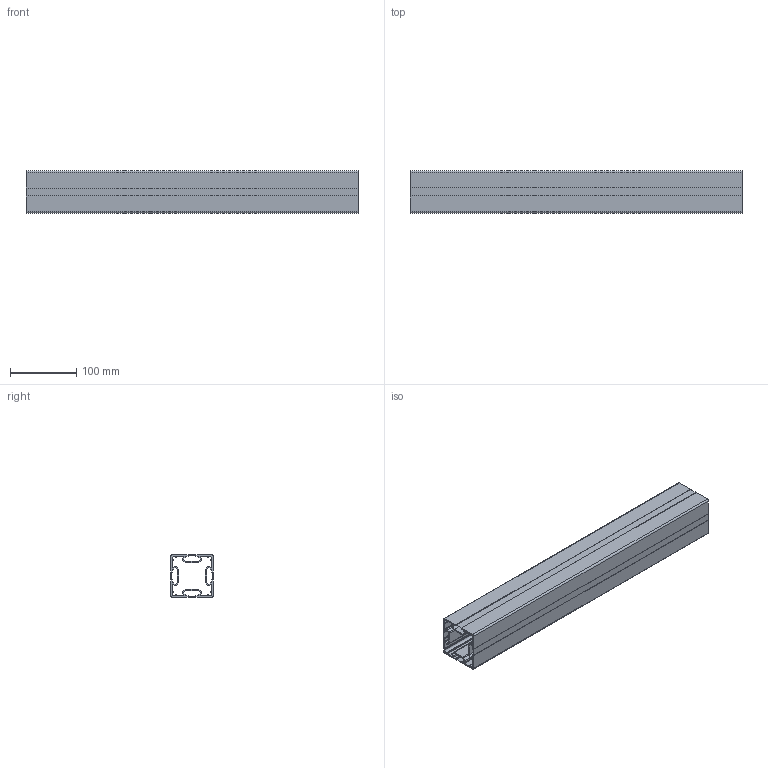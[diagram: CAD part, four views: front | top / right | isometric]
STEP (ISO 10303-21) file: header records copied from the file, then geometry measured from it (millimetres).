
FILE_DESCRIPTION (( 'STEP AP214' ), '1' );
FILE_NAME ('FBSB-64x64C.STEP', '2011-06-30T08:33:35', ( '.' ), ( '' ), 'SwSTEP 2.0', 'SolidWorks 2010', '' );
FILE_SCHEMA (( 'AUTOMOTIVE_DESIGN' ));
Length unit declared in the file: millimetre
Products named in the file (1): FBSB-64x64C
Bounding box: 500 x 64 x 64 mm (x, y, z)
Volume: 400344.8 mm3; surface area: 423378.4 mm2
Topology: 5 solids, 5 shells, 204 faces, 582 edges, 388 vertices
Faces by surface type: plane 122, cylinder 82
Entity records: 6744 total; most frequent: CARTESIAN_POINT 1175, ORIENTED_EDGE 1164, DIRECTION 1156, EDGE_CURVE 582, VECTOR 418, LINE 418, VERTEX_POINT 388, AXIS2_PLACEMENT_3D 369
